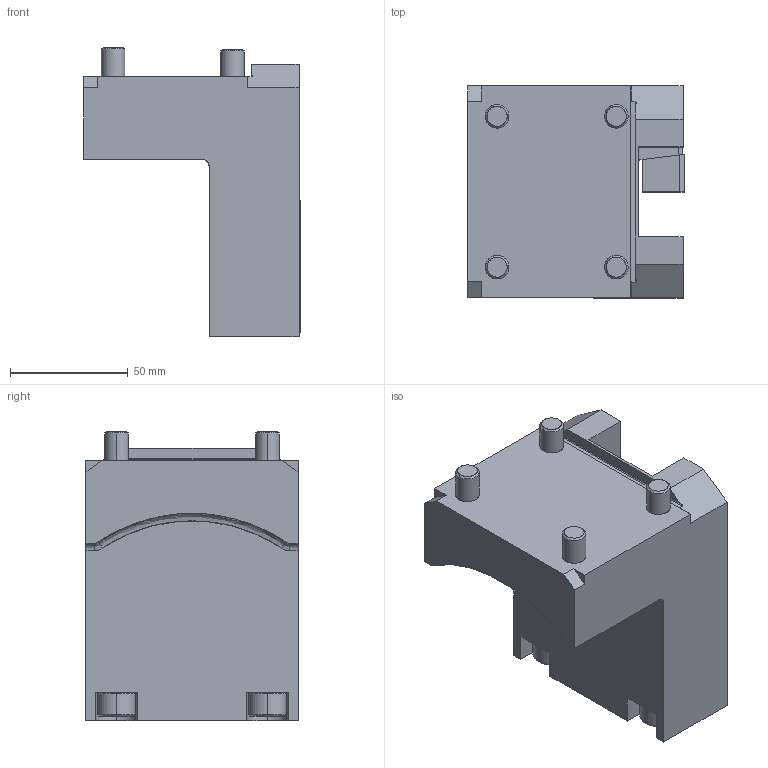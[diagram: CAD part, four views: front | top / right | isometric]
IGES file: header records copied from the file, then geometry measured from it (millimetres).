
Start section: SolidWorks IGES file using analytic representation for surfaces
Global section: file name: C:\Working Directory\Command Haas Block Tools\STEP Models and Drawings\EWS-10317.IGS; native system: SolidWorks 2017; preprocessor: SolidWorks 2017; author: kthao; date: 180214.124439; units: inch
Bounding box: 92.04 x 90 x 122.85 mm (x, y, z)
Surface area: 62889.5 mm2 (no closed solid volume)
Topology: 0 solids, 0 shells, 202 faces, 2292 edges, 2284 vertices
Faces by surface type: bspline 113, revolution 89
